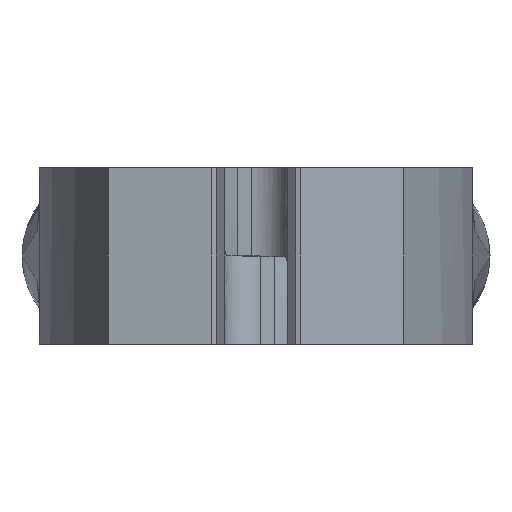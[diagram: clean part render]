
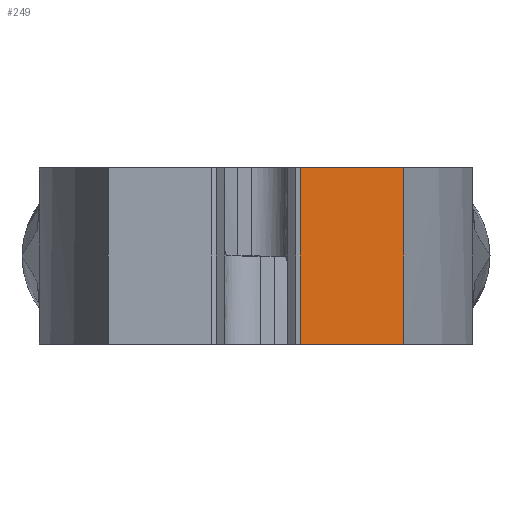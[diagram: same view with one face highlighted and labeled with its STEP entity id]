
A CAD part, left-side view. The second image highlights one B-rep face of the part: STEP entity #249.
In plain terms, the highlighted planar face has unit normal (-0.996, -0.087, 0) as drawn and (-1, 0, 0) by its records, which use the part's own axes.
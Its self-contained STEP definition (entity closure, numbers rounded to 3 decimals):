
#28 = PLANE ( 'NONE',  #1950 ) ;
#143 = CARTESIAN_POINT ( 'NONE',  ( -20., 0., 7. ) ) ;
#186 = ORIENTED_EDGE ( 'NONE', *, *, #2442, .T. ) ;
#208 = EDGE_CURVE ( 'NONE', #5657, #1973, #5296, .T. ) ;
#249 = ADVANCED_FACE ( 'NONE', ( #3738 ), #28, .T. ) ;
#446 = EDGE_CURVE ( 'NONE', #5657, #4298, #1290, .T. ) ;
#475 = DIRECTION ( 'NONE',  ( 0., -1., 0. ) ) ;
#536 = CARTESIAN_POINT ( 'NONE',  ( -20., -4.138, 0. ) ) ;
#585 = CARTESIAN_POINT ( 'NONE',  ( -20., -4.138, 7. ) ) ;
#609 = VECTOR ( 'NONE', #967, 1000. ) ;
#967 = DIRECTION ( 'NONE',  ( 0., -1., 0. ) ) ;
#1290 = LINE ( 'NONE', #4258, #6176 ) ;
#1693 = VECTOR ( 'NONE', #4089, 1000. ) ;
#1744 = EDGE_CURVE ( 'NONE', #1973, #3871, #1849, .T. ) ;
#1839 = ORIENTED_EDGE ( 'NONE', *, *, #446, .T. ) ;
#1849 = LINE ( 'NONE', #5117, #1693 ) ;
#1950 = AXIS2_PLACEMENT_3D ( 'NONE', #6333, #5747, #5774 ) ;
#1973 = VERTEX_POINT ( 'NONE', #585 ) ;
#2442 = EDGE_CURVE ( 'NONE', #4298, #3871, #3399, .T. ) ;
#3060 = ORIENTED_EDGE ( 'NONE', *, *, #208, .F. ) ;
#3399 = LINE ( 'NONE', #4102, #609 ) ;
#3711 = DIRECTION ( 'NONE',  ( 0., 0., -1. ) ) ;
#3738 = FACE_OUTER_BOUND ( 'NONE', #4777, .T. ) ;
#3871 = VERTEX_POINT ( 'NONE', #536 ) ;
#3909 = VECTOR ( 'NONE', #475, 1000. ) ;
#4089 = DIRECTION ( 'NONE',  ( 0., 0., -1. ) ) ;
#4102 = CARTESIAN_POINT ( 'NONE',  ( -20., -2.069, 0. ) ) ;
#4148 = CARTESIAN_POINT ( 'NONE',  ( -20., 0., 7. ) ) ;
#4258 = CARTESIAN_POINT ( 'NONE',  ( -20., 0., 3.5 ) ) ;
#4298 = VERTEX_POINT ( 'NONE', #5434 ) ;
#4480 = ORIENTED_EDGE ( 'NONE', *, *, #1744, .F. ) ;
#4777 = EDGE_LOOP ( 'NONE', ( #4480, #3060, #1839, #186 ) ) ;
#5117 = CARTESIAN_POINT ( 'NONE',  ( -20., -4.138, 3.5 ) ) ;
#5296 = LINE ( 'NONE', #4148, #3909 ) ;
#5434 = CARTESIAN_POINT ( 'NONE',  ( -20., 0., 0. ) ) ;
#5657 = VERTEX_POINT ( 'NONE', #143 ) ;
#5747 = DIRECTION ( 'NONE',  ( -1., 0., 0. ) ) ;
#5774 = DIRECTION ( 'NONE',  ( 0., -1., 0. ) ) ;
#6176 = VECTOR ( 'NONE', #3711, 1000. ) ;
#6333 = CARTESIAN_POINT ( 'NONE',  ( -20., 0., 0. ) ) ;
